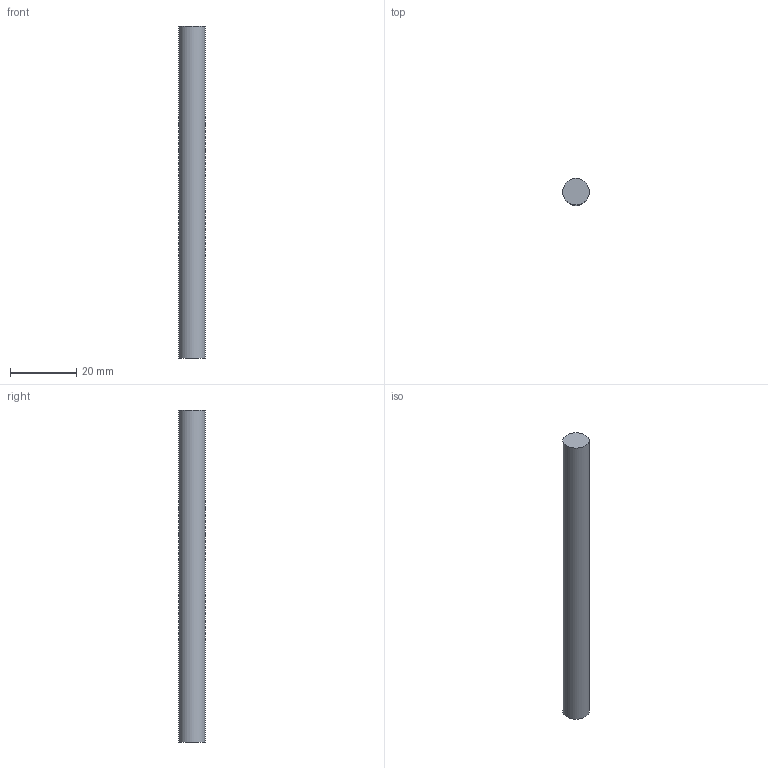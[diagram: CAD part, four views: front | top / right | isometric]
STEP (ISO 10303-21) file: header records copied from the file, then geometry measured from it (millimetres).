
FILE_DESCRIPTION(('FreeCAD Model'),'2;1');
FILE_NAME('Open CASCADE Shape Model','2026-10-30T14:44:59',('FreeCAD'),( 'FreeCAD'),'Open CASCADE STEP processor 7.8','FreeCAD','Unknown');
FILE_SCHEMA(('AUTOMOTIVE_DESIGN { 1 0 10303 214 1 1 1 1 }'));
Length unit declared in the file: millimetre
Products named in the file (1): Open CASCADE STEP translator 7.8 10
Bounding box: 8 x 8 x 99.95 mm (x, y, z)
Volume: 5024 mm3; surface area: 2612.5 mm2
Topology: 1 solids, 1 shells, 3 faces, 3 edges, 2 vertices
Faces by surface type: plane 2, cylinder 1
Full cylindrical faces by diameter (mm): 8 x1
Entity records: 69 total; most frequent: DIRECTION 13, CARTESIAN_POINT 9, AXIS2_PLACEMENT_3D 6, ORIENTED_EDGE 6, ADVANCED_FACE 3, FACE_BOUND 3, EDGE_LOOP 3, EDGE_CURVE 3
